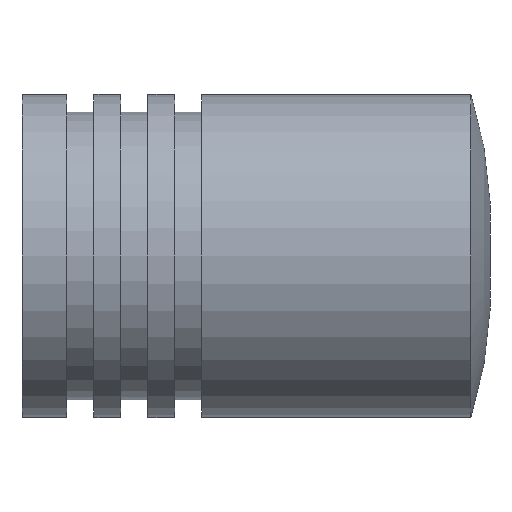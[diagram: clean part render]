
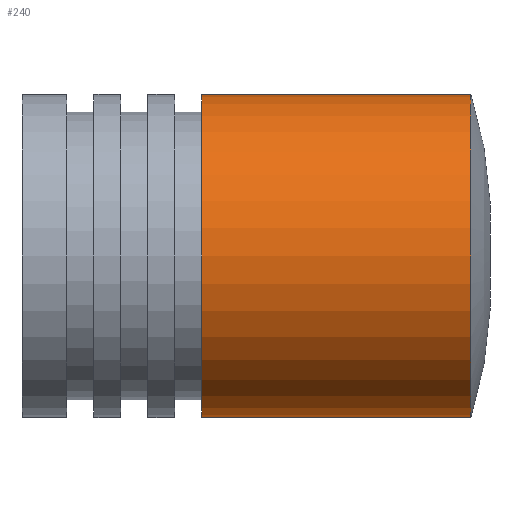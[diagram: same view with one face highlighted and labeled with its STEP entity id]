
A CAD part, left-side view. The second image highlights one B-rep face of the part: STEP entity #240.
In plain terms, the highlighted cylindrical face has radius 9 mm (diameter 18 mm), a partial arc.
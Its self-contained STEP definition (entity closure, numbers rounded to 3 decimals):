
#158 = VERTEX_POINT( '', #397 );
#182 = EDGE_CURVE( '', #324, #158, #423, .T. );
#208 = EDGE_CURVE( '', #234, #158, #452, .T. );
#228 = EDGE_CURVE( '', #324, #238, #476, .T. );
#234 = VERTEX_POINT( '', #484 );
#238 = VERTEX_POINT( '', #488 );
#240 = ADVANCED_FACE( '', ( #490 ), #491, .T. );
#324 = VERTEX_POINT( '', #590 );
#352 = EDGE_CURVE( '', #238, #234, #621, .T. );
#397 = CARTESIAN_POINT( '', ( 0., -10., -9. ) );
#423 = CIRCLE( '', #698, 9. );
#452 = LINE( '', #736, #737 );
#476 = LINE( '', #766, #767 );
#484 = CARTESIAN_POINT( '', ( 0., -25., -9. ) );
#488 = CARTESIAN_POINT( '', ( 0., -25., 9. ) );
#490 = FACE_OUTER_BOUND( '', #781, .T. );
#491 = CYLINDRICAL_SURFACE( '', #782, 9. );
#590 = CARTESIAN_POINT( '', ( 0., -10., 9. ) );
#621 = CIRCLE( '', #945, 9. );
#698 = AXIS2_PLACEMENT_3D( '', #1022, #1023, #1024 );
#736 = CARTESIAN_POINT( '', ( 0., -17.5, -9. ) );
#737 = VECTOR( '', #1055, 1. );
#766 = CARTESIAN_POINT( '', ( 0., -17.5, 9. ) );
#767 = VECTOR( '', #1086, 1. );
#781 = EDGE_LOOP( '', ( #1096, #1097, #1098, #1099 ) );
#782 = AXIS2_PLACEMENT_3D( '', #1100, #1101, #1102 );
#945 = AXIS2_PLACEMENT_3D( '', #1267, #1268, #1269 );
#1022 = CARTESIAN_POINT( '', ( 0., -10., 0. ) );
#1023 = DIRECTION( '', ( 0., -1., 0. ) );
#1024 = DIRECTION( '', ( 0., 0., 1. ) );
#1055 = DIRECTION( '', ( 0., 1., 0. ) );
#1086 = DIRECTION( '', ( 0., -1., 0. ) );
#1096 = ORIENTED_EDGE( '', *, *, #228, .F. );
#1097 = ORIENTED_EDGE( '', *, *, #182, .T. );
#1098 = ORIENTED_EDGE( '', *, *, #208, .F. );
#1099 = ORIENTED_EDGE( '', *, *, #352, .F. );
#1100 = CARTESIAN_POINT( '', ( 0., -17.5, 0. ) );
#1101 = DIRECTION( '', ( 0., 1., 0. ) );
#1102 = DIRECTION( '', ( 0., 0., 1. ) );
#1267 = CARTESIAN_POINT( '', ( 0., -25., 0. ) );
#1268 = DIRECTION( '', ( 0., -1., 0. ) );
#1269 = DIRECTION( '', ( 0., 0., 1. ) );
